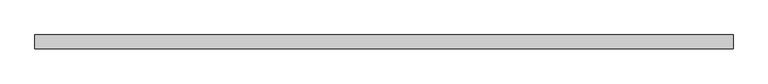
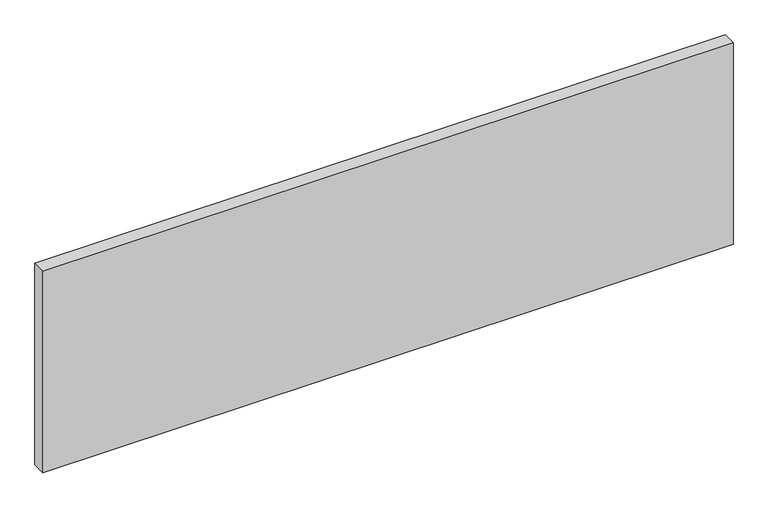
"""IFC4 building model written with IfcOpenShell, lengths in millimetres: proxy geometry, BASYS^CREDENZA 1_INTERNAL DETAILS-RT BOTTOM."""

from ifc_helpers import new_model, si_unit, frame, origin, place, context, project, spatial, polyline, outline, extrude, source, transform, mapped, element, save


def generic_models_30219c74(model_context):
    return source(origin(), model_context, "Body", "SweptSolid", [
        extrude(outline(polyline([(2419.35, -668.5), (2419.35, -706.6), (515.14375, -706.6), (515.14375, -668.5), (2419.35, -668.5)])), frame((0.0, 0.0, -615.95), z_axis=(0.0, 0.0, 1.0), x_axis=(1.0, 0.0, 0.0)), (0.0, 0.0, 1.0), 587.375),
    ])


if __name__ == "__main__":
    model = new_model("IFC4")
    model_context = context("Model", 3, world=origin())
    ifc_project = project(units=[si_unit("LENGTHUNIT", "METRE", prefix="MILLI")], contexts=[model_context])
    site = spatial("IfcSite", under=ifc_project)
    building = spatial("IfcBuilding", under=site)
    placement = place(None, origin())
    generic_models_shape = generic_models_30219c74(model_context)
    element("IfcBuildingElementProxy", 1, Name="BASYS^CREDENZA 1_INTERNAL DETAILS-RT BOTTOM", ObjectType="BASYS^CREDENZA 1_INTERNAL DETAILS-RT BOTTOM", at=placement, inside=building, context=model_context, shape_type="MappedRepresentation", body=[
        mapped(generic_models_shape, transform((0.0, 0.0, 0.0), x_axis=(1.0, 0.0, 0.0), y_axis=(0.0, 1.0, 0.0), z_axis=(0.0, 0.0, 1.0))),
    ])
    save(model, "model.ifc")
